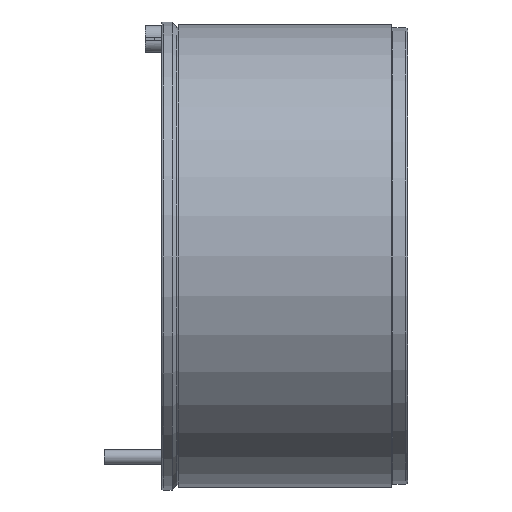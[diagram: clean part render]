
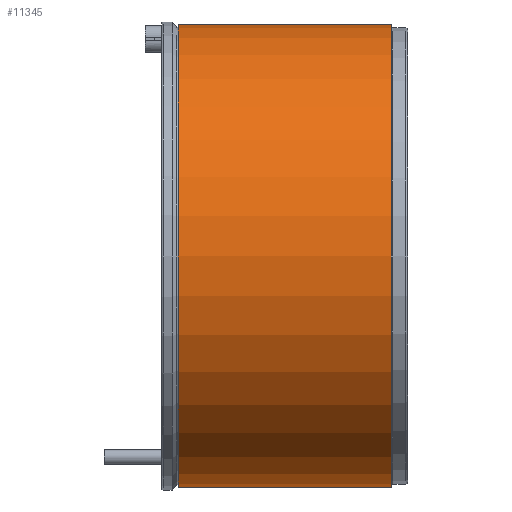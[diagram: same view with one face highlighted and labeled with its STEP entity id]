
A CAD part, left-side view. The second image highlights one B-rep face of the part: STEP entity #11345.
In plain terms, the highlighted cylindrical face has radius 197.5 mm (diameter 395 mm), a partial arc.
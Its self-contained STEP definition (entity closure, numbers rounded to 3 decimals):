
#14 = EDGE_CURVE ( 'NONE', #5209, #7473, #1129, .T. ) ;
#1129 = CIRCLE ( 'NONE', #3913, 197.5 ) ;
#1188 = ORIENTED_EDGE ( 'NONE', *, *, #10381, .T. ) ;
#1428 = DIRECTION ( 'NONE',  ( 0., -1., 0. ) ) ;
#1695 = AXIS2_PLACEMENT_3D ( 'NONE', #7454, #2027, #14093 ) ;
#2027 = DIRECTION ( 'NONE',  ( 0., -1., 0. ) ) ;
#2818 = CARTESIAN_POINT ( 'NONE',  ( 0., 14., -197.5 ) ) ;
#2883 = CARTESIAN_POINT ( 'NONE',  ( 0., 196., 0. ) ) ;
#3243 = EDGE_LOOP ( 'NONE', ( #12136, #10282, #1188, #10264 ) ) ;
#3386 = LINE ( 'NONE', #7180, #4565 ) ;
#3913 = AXIS2_PLACEMENT_3D ( 'NONE', #2883, #8495, #9515 ) ;
#4078 = VECTOR ( 'NONE', #11875, 1000. ) ;
#4331 = EDGE_CURVE ( 'NONE', #4876, #10288, #8981, .T. ) ;
#4565 = VECTOR ( 'NONE', #8273, 1000. ) ;
#4876 = VERTEX_POINT ( 'NONE', #5160 ) ;
#5160 = CARTESIAN_POINT ( 'NONE',  ( 0., 14., 197.5 ) ) ;
#5209 = VERTEX_POINT ( 'NONE', #12312 ) ;
#6260 = CARTESIAN_POINT ( 'NONE',  ( 0., 0., -197.5 ) ) ;
#7180 = CARTESIAN_POINT ( 'NONE',  ( 0., 0., 197.5 ) ) ;
#7454 = CARTESIAN_POINT ( 'NONE',  ( 0., 14., 0. ) ) ;
#7473 = VERTEX_POINT ( 'NONE', #11008 ) ;
#7815 = FACE_OUTER_BOUND ( 'NONE', #3243, .T. ) ;
#8088 = CARTESIAN_POINT ( 'NONE',  ( 0., 0., 0. ) ) ;
#8152 = CYLINDRICAL_SURFACE ( 'NONE', #14030, 197.5 ) ;
#8273 = DIRECTION ( 'NONE',  ( 0., -1., 0. ) ) ;
#8495 = DIRECTION ( 'NONE',  ( 0., -1., 0. ) ) ;
#8981 = CIRCLE ( 'NONE', #1695, 197.5 ) ;
#9515 = DIRECTION ( 'NONE',  ( 0., 0., -1. ) ) ;
#10145 = DIRECTION ( 'NONE',  ( 0., 0., -1. ) ) ;
#10264 = ORIENTED_EDGE ( 'NONE', *, *, #4331, .F. ) ;
#10282 = ORIENTED_EDGE ( 'NONE', *, *, #14, .T. ) ;
#10288 = VERTEX_POINT ( 'NONE', #2818 ) ;
#10381 = EDGE_CURVE ( 'NONE', #7473, #10288, #13129, .T. ) ;
#11008 = CARTESIAN_POINT ( 'NONE',  ( 0., 196., -197.5 ) ) ;
#11345 = ADVANCED_FACE ( 'NONE', ( #7815 ), #8152, .T. ) ;
#11357 = EDGE_CURVE ( 'NONE', #5209, #4876, #3386, .T. ) ;
#11875 = DIRECTION ( 'NONE',  ( 0., -1., 0. ) ) ;
#12136 = ORIENTED_EDGE ( 'NONE', *, *, #11357, .F. ) ;
#12312 = CARTESIAN_POINT ( 'NONE',  ( 0., 196., 197.5 ) ) ;
#13129 = LINE ( 'NONE', #6260, #4078 ) ;
#14030 = AXIS2_PLACEMENT_3D ( 'NONE', #8088, #1428, #10145 ) ;
#14093 = DIRECTION ( 'NONE',  ( 0., 0., -1. ) ) ;
